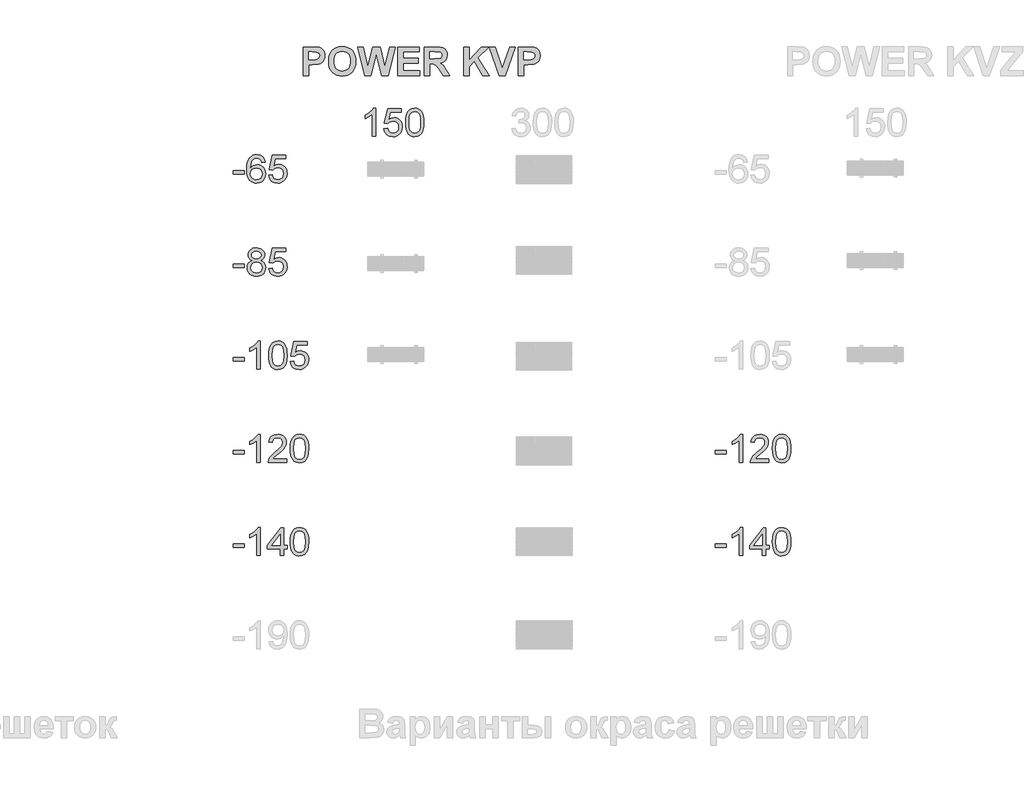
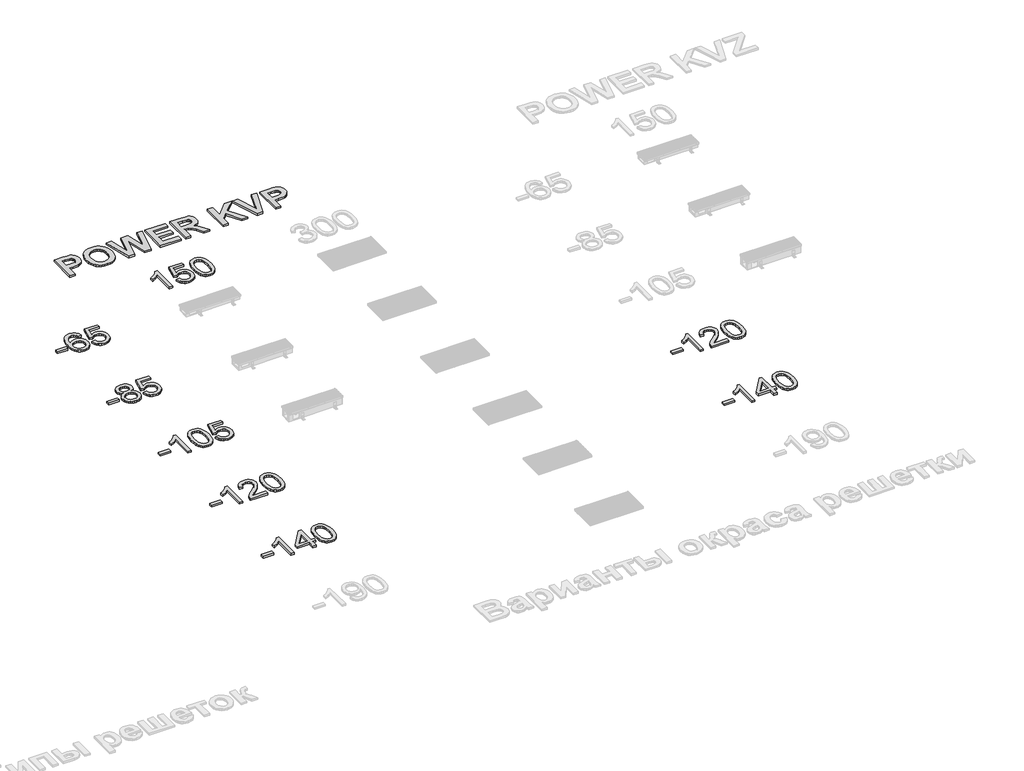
# One storey, part 9 of 10: 9 proxies.
"""IFC4 building model written with IfcOpenShell, lengths in millimetres."""

from ifc_helpers import new_model, si_unit, origin, origin_with_axes, place, context, project, spatial, polyline, outline, extrude, element, save

model = new_model("IFC4")

# Units and contexts
model_context = context("Model", 3, world=origin())
ifc_project = project(units=[si_unit("LENGTHUNIT", "METRE", prefix="MILLI")], contexts=[model_context])

# Site, building, storey
site = spatial("IfcSite", under=ifc_project)
building = spatial("IfcBuilding", under=site)
storey = spatial("IfcBuildingStorey", under=building, Name="Уровень 1", Elevation=0.0)

# Proxies
placement = place(None, origin())
element("IfcBuildingElementProxy", 1, Name="300", ObjectType="300", at=placement, inside=storey, context=model_context, shape_type="SweptSolid", body=[
    extrude(outline(polyline([(5740.7785013, -11863.6447251), (5740.7785013, -11825.9736087), (5858.5007398, -11825.9736087), (5858.5007398, -11863.6447251), (5740.7785013, -11863.6447251)])), origin_with_axes(), (0.0, 0.0, 1.0), 20.0),
    extrude(outline(polyline([(6084.5274376, -11731.795818), (6046.8563213, -11736.5047075), (6040.7862684, -11717.8346963), (6032.5824999, -11705.0875851), (6015.4943812, -11693.3337554), (5994.8378072, -11689.4158121), (5977.3266242, -11691.6966805), (5960.8455108, -11698.5392856), (5946.6912511, -11712.9510628), (5935.1305594, -11732.7890994), (5927.322264, -11760.8492985), (5924.4251933, -11799.9275635), (5939.5359463, -11782.2968189), (5957.6449375, -11769.8716045), (5977.7404915, -11762.5047675), (5998.8109327, -11760.0491552), (6016.9107269, -11761.7276168), (6033.6125695, -11766.7630016), (6048.9164605, -11775.1553096), (6062.8223999, -11786.9045409), (6074.3784931, -11801.3117195), (6082.6328453, -11817.6778698), (6087.5854567, -11836.0029916), (6089.2363271, -11856.2870851), (6086.1277243, -11883.2620324), (6076.8019157, -11908.2688111), (6062.0314536, -11929.4772081), (6042.5888902, -11945.0570106), (6019.3571422, -11954.6311395), (5993.2191264, -11957.8225158), (5970.7622299, -11955.7071943), (5950.4804356, -11949.3612299), (5932.3737437, -11938.7846226), (5916.442154, -11923.9773723), (5903.4536203, -11904.3140796), (5894.1760962, -11879.1693452), (5888.6095818, -11848.5431691), (5886.754077, -11812.4355513), (5888.8142162, -11771.9547363), (5894.9946337, -11737.4060184), (5905.2953296, -11708.7893977), (5919.7163038, -11686.1048742), (5935.34669, -11671.0722962), (5953.4694768, -11660.3347404), (5974.0846641, -11653.892207), (5997.1922519, -11651.7446958), (6030.2464492, -11657.0605907), (6056.7155588, -11673.0082752), (6075.2568113, -11698.3369505), (6084.5274376, -11731.795818)]), holes=[polyline([(5924.4251933, -11855.698474), (5926.6048941, -11872.3911195), (5933.1439966, -11888.3296069), (5943.2975397, -11902.0332112), (5956.3205623, -11912.0212074), (5972.0383205, -11918.1188515), (5990.2760704, -11920.1513995), (6015.1356963, -11915.9391507), (6034.6794273, -11903.3024041), (6047.3437649, -11883.4367764), (6051.5652108, -11857.5378839), (6047.3989472, -11832.6782581), (6034.9001565, -11813.7231383), (6015.0253317, -11801.7209882), (5988.7309661, -11797.7202715), (5963.9081284, -11801.7209882), (5943.1503869, -11813.7231383), (5929.1064917, -11832.2184056), (5924.4251933, -11855.698474)])]), origin_with_axes(), (0.0, 0.0, 1.0), 20.0),
    extrude(outline(polyline([(6122.1985539, -11873.0625041), (6159.8696702, -11868.3536146), (6166.7858517, -11890.9691602), (6178.8523812, -11907.1651651), (6196.0140762, -11916.9048409), (6218.2157546, -11920.1513995), (6245.2182931, -11915.635648), (6265.4518028, -11902.0883935), (6278.0885494, -11881.0731346), (6282.3007982, -11854.1533696), (6278.3552638, -11828.8063001), (6266.5186606, -11809.418919), (6246.6990181, -11797.1132662), (6218.8043658, -11793.011382), (6200.5298277, -11794.6484569), (6185.7317745, -11799.5596815), (6164.5785598, -11816.5558297), (6126.9074434, -11811.8469401), (6159.8696702, -11656.4535854), (6305.8452459, -11656.4535854), (6305.8452459, -11694.1247017), (6190.3302994, -11694.1247017), (6174.217068, -11777.1188798), (6201.127636, -11760.7849192), (6229.3257909, -11755.3402657), (6247.6716062, -11757.0279243), (6264.5229008, -11762.0909003), (6279.8796748, -11770.5291935), (6293.7419283, -11782.3428041), (6305.2175472, -11796.8097636), (6313.414418, -11813.2081035), (6318.3325404, -11831.5378239), (6319.9719145, -11851.7989248), (6314.0674085, -11889.4700411), (6306.686776, -11906.2638542), (6296.3538904, -11921.6965039), (6280.7005115, -11937.5016341), (6262.4351705, -11948.7910128), (6241.5578672, -11955.5646401), (6218.0686019, -11957.8225158), (6181.0688702, -11952.0191773), (6165.3901994, -11944.7650043), (6151.5923253, -11934.6091619), (6140.1121078, -11922.0574881), (6131.3864067, -11907.6158205), (6122.1985539, -11873.0625041)])), origin_with_axes(), (0.0, 0.0, 1.0), 20.0),
])
element("IfcBuildingElementProxy", 2, Name="300", ObjectType="300", at=placement, inside=storey, context=model_context, shape_type="SweptSolid", body=[
    extrude(outline(polyline([(5740.7785013, -12863.6447251), (5740.7785013, -12825.9736087), (5858.5007398, -12825.9736087), (5858.5007398, -12863.6447251), (5740.7785013, -12863.6447251)])), origin_with_axes(), (0.0, 0.0, 1.0), 20.0),
    extrude(outline(polyline([(5946.3509602, -12787.1252701), (5926.1818298, -12777.1924562), (5912.0275701, -12763.7279752), (5903.6674517, -12747.0077385), (5900.8807456, -12727.3076576), (5902.3982588, -12711.9439858), (5906.9507985, -12697.8587039), (5914.5383647, -12685.051812), (5925.1609573, -12673.5233099), (5938.3081401, -12663.9951663), (5953.4694768, -12657.1893494), (5989.834612, -12651.7446958), (6026.4204765, -12657.3181081), (6041.7473601, -12664.2848733), (6055.096878, -12674.0383447), (6065.9126086, -12685.7921745), (6073.6381305, -12698.7600148), (6078.2734437, -12712.9418657), (6079.8185481, -12728.3377272), (6077.0686301, -12747.4032116), (6068.8188764, -12763.8383398), (6054.9773163, -12777.2200473), (6035.4519794, -12787.1252701), (6058.6377422, -12799.0722378), (6075.5143287, -12816.6661943), (6085.8058275, -12839.0610107), (6089.2363271, -12865.4105586), (6087.5348729, -12884.2001315), (6082.4305102, -12901.426206), (6073.9232391, -12917.0887819), (6062.0130595, -12931.1878594), (6047.3253708, -12942.8405216), (6030.4855725, -12951.1638517), (6011.4936645, -12956.1578498), (5990.3496468, -12957.8225158), (5969.2056292, -12956.150952), (5950.2137212, -12951.1362606), (5933.3739228, -12942.7784415), (5918.6862342, -12931.0774948), (5906.7760546, -12916.879549), (5898.2687834, -12901.0307328), (5893.1644208, -12883.5310462), (5891.4629665, -12864.380489), (5895.0314219, -12837.0100686), (5905.7367879, -12814.4956905), (5923.0272417, -12797.6099069), (5946.3509602, -12787.1252701)]), holes=[polyline([(5938.5518619, -12728.4113036), (5941.890391, -12744.8556288), (5951.9059783, -12757.989016), (5968.3043183, -12766.5974547), (5990.7911052, -12769.4669343), (6012.7536603, -12766.6158488), (6028.9036799, -12758.0625924), (6038.8364938, -12745.3706636), (6042.1474318, -12730.1035608), (6038.7261292, -12714.2570439), (6028.4622215, -12701.1512478), (6012.0914728, -12692.349671), (5990.3496468, -12689.4158121), (5968.4698652, -12692.2852917), (5952.1267075, -12700.8937304), (5941.9455733, -12713.5120828), (5938.5518619, -12728.4113036)]), polyline([(5929.1340828, -12863.0561139), (5935.424865, -12891.4198157), (5944.1344712, -12903.5875127), (5957.6817257, -12912.6466068), (5973.9053217, -12918.2752013), (5990.6439524, -12920.1513995), (6016.2853275, -12916.2058651), (6035.5255558, -12904.3692619), (6047.5552971, -12886.4442117), (6051.5652108, -12864.2333362), (6047.4265384, -12841.6453817), (6035.0105211, -12823.3248584), (6015.3288343, -12811.1847525), (5989.3931536, -12807.1380506), (5964.1104635, -12811.1295702), (5945.0633732, -12823.1041292), (5933.1164054, -12841.0751646), (5929.1340828, -12863.0561139)])]), origin_with_axes(), (0.0, 0.0, 1.0), 20.0),
    extrude(outline(polyline([(6122.1985539, -12873.0625041), (6159.8696702, -12868.3536146), (6166.7858517, -12890.9691602), (6178.8523812, -12907.1651651), (6196.0140762, -12916.9048409), (6218.2157546, -12920.1513995), (6245.2182931, -12915.635648), (6265.4518028, -12902.0883935), (6278.0885494, -12881.0731346), (6282.3007982, -12854.1533696), (6278.3552638, -12828.8063001), (6266.5186606, -12809.418919), (6246.6990181, -12797.1132662), (6218.8043658, -12793.011382), (6200.5298277, -12794.6484569), (6185.7317745, -12799.5596815), (6164.5785598, -12816.5558297), (6126.9074434, -12811.8469401), (6159.8696702, -12656.4535854), (6305.8452459, -12656.4535854), (6305.8452459, -12694.1247017), (6190.3302994, -12694.1247017), (6174.217068, -12777.1188798), (6201.127636, -12760.7849192), (6229.3257909, -12755.3402657), (6247.6716062, -12757.0279243), (6264.5229008, -12762.0909003), (6279.8796748, -12770.5291935), (6293.7419283, -12782.3428041), (6305.2175472, -12796.8097636), (6313.414418, -12813.2081035), (6318.3325404, -12831.5378239), (6319.9719145, -12851.7989248), (6314.0674085, -12889.4700411), (6306.686776, -12906.2638542), (6296.3538904, -12921.6965039), (6280.7005115, -12937.5016341), (6262.4351705, -12948.7910128), (6241.5578672, -12955.5646401), (6218.0686019, -12957.8225158), (6181.0688702, -12952.0191773), (6165.3901994, -12944.7650043), (6151.5923253, -12934.6091619), (6140.1121078, -12922.0574881), (6131.3864067, -12907.6158205), (6122.1985539, -12873.0625041)])), origin_with_axes(), (0.0, 0.0, 1.0), 20.0),
])
element("IfcBuildingElementProxy", 3, Name="300", ObjectType="300", at=placement, inside=storey, context=model_context, shape_type="SweptSolid", body=[
    extrude(outline(polyline([(5740.7785013, -13863.6447251), (5740.7785013, -13825.9736087), (5858.5007398, -13825.9736087), (5858.5007398, -13863.6447251), (5740.7785013, -13863.6447251)])), origin_with_axes(), (0.0, 0.0, 1.0), 20.0),
    extrude(outline(polyline([(6032.7296527, -13953.1136263), (5995.0585364, -13953.1136263), (5995.0585364, -13718.2577606), (5959.3739828, -13743.6784064), (5919.7163038, -13762.6979056), (5919.7163038, -13727.0869284), (5949.3032132, -13710.9920912), (5974.9353912, -13691.8438333), (5995.1413098, -13671.4815649), (6008.449441, -13651.7446958), (6032.7296527, -13651.7446958), (6032.7296527, -13953.1136263)])), origin_with_axes(), (0.0, 0.0, 1.0), 20.0),
    extrude(outline(polyline([(6122.1985539, -13804.8571822), (6124.9668659, -13756.6186556), (6133.271802, -13718.147396), (6147.0305886, -13688.8547921), (6166.1604523, -13668.1522328), (6190.799349, -13655.8465801), (6221.0852342, -13651.7446958), (6244.2985881, -13654.172717), (6265.0839208, -13661.4567805), (6282.4663451, -13673.3117778), (6295.4709736, -13689.4526003), (6305.2934229, -13709.7412924), (6313.1293094, -13734.0398982), (6318.2612632, -13764.8960005), (6319.9719145, -13804.8571822), (6317.2311937, -13852.8197973), (6309.0090311, -13891.1990865), (6295.3330179, -13920.5192815), (6276.2307453, -13941.3046142), (6251.5366664, -13953.6930404), (6221.0852342, -13957.8225158), (6200.3366897, -13956.0290911), (6181.9425899, -13950.6488169), (6165.9029349, -13941.6816933), (6152.2177247, -13929.1277202), (6139.0843375, -13906.4339996), (6129.7033466, -13878.1576698), (6124.0747521, -13844.2987306), (6122.1985539, -13804.8571822)]), holes=[polyline([(6159.8696702, -13804.7836058), (6164.2842542, -13864.0401982), (6169.8024841, -13884.3081969), (6177.528006, -13898.3359972), (6197.2464809, -13914.6975489), (6221.0852342, -13920.1513995), (6244.9239875, -13914.6791548), (6264.6424624, -13898.2624208), (6272.3679843, -13884.2116278), (6277.8862143, -13863.9482277), (6282.3007982, -13804.7836058), (6278.0333671, -13746.8605857), (6272.6990781, -13726.6592656), (6265.2310736, -13712.2980722), (6245.5493869, -13695.1363772), (6220.6437758, -13689.4158121), (6197.0625399, -13694.4557955), (6178.1166172, -13709.5757455), (6170.1335779, -13725.2107303), (6164.431407, -13746.2903686), (6159.8696702, -13804.7836058)])]), origin_with_axes(), (0.0, 0.0, 1.0), 20.0),
    extrude(outline(polyline([(6352.9341413, -13873.0625041), (6390.6052576, -13868.3536146), (6397.5214391, -13890.9691602), (6409.5879685, -13907.1651651), (6426.7496636, -13916.9048409), (6448.951342, -13920.1513995), (6475.9538805, -13915.635648), (6496.1873902, -13902.0883935), (6508.8241367, -13881.0731346), (6513.0363856, -13854.1533696), (6509.0908512, -13828.8063001), (6497.254248, -13809.418919), (6477.4346055, -13797.1132662), (6449.5399532, -13793.011382), (6431.2654151, -13794.6484569), (6416.4673618, -13799.5596815), (6395.3141471, -13816.5558297), (6357.6430308, -13811.8469401), (6390.6052576, -13656.4535854), (6536.5808333, -13656.4535854), (6536.5808333, -13694.1247017), (6421.0658868, -13694.1247017), (6404.9526554, -13777.1188798), (6431.8632233, -13760.7849192), (6460.0613783, -13755.3402657), (6478.4071935, -13757.0279243), (6495.2584882, -13762.0909003), (6510.6152622, -13770.5291935), (6524.4775156, -13782.3428041), (6535.9531346, -13796.8097636), (6544.1500053, -13813.2081035), (6549.0681277, -13831.5378239), (6550.7075019, -13851.7989248), (6544.8029959, -13889.4700411), (6537.4223633, -13906.2638542), (6527.0894778, -13921.6965039), (6511.4360989, -13937.5016341), (6493.1707578, -13948.7910128), (6472.2934546, -13955.5646401), (6448.8041892, -13957.8225158), (6411.8044576, -13952.0191773), (6396.1257868, -13944.7650043), (6382.3279127, -13934.6091619), (6370.8476952, -13922.0574881), (6362.1219941, -13907.6158205), (6352.9341413, -13873.0625041)])), origin_with_axes(), (0.0, 0.0, 1.0), 20.0),
])
element("IfcBuildingElementProxy", 4, Name="300", ObjectType="300", at=placement, inside=storey, context=model_context, shape_type="SweptSolid", body=[
    extrude(outline(polyline([(5740.7785013, -14863.6447251), (5740.7785013, -14825.9736087), (5858.5007398, -14825.9736087), (5858.5007398, -14863.6447251), (5740.7785013, -14863.6447251)])), origin_with_axes(), (0.0, 0.0, 1.0), 20.0),
    extrude(outline(polyline([(6032.7296527, -14953.1136263), (5995.0585364, -14953.1136263), (5995.0585364, -14718.2577606), (5959.3739828, -14743.6784064), (5919.7163038, -14762.6979056), (5919.7163038, -14727.0869284), (5949.3032132, -14710.9920912), (5974.9353912, -14691.8438333), (5995.1413098, -14671.4815649), (6008.449441, -14651.7446958), (6032.7296527, -14651.7446958), (6032.7296527, -14953.1136263)])), origin_with_axes(), (0.0, 0.0, 1.0), 20.0),
    extrude(outline(polyline([(6315.263025, -14915.44251), (6315.263025, -14953.1136263), (6117.4896644, -14953.1136263), (6121.5363663, -14927.1411574), (6130.8253867, -14906.8432683), (6144.4186264, -14887.1523845), (6164.0819191, -14866.5417958), (6191.5810982, -14843.4847917), (6232.2320587, -14807.3771739), (6256.6226349, -14780.7241233), (6268.8179231, -14759.092662), (6272.8830191, -14738.0498119), (6269.0478493, -14719.1866626), (6257.5423399, -14703.5056926), (6239.856413, -14692.9382822), (6217.4799907, -14689.4158121), (6193.9815282, -14692.8555088), (6175.7253842, -14703.1745988), (6163.9439633, -14719.5637416), (6159.8696702, -14741.2135971), (6122.1985539, -14736.5047075), (6131.3312244, -14700.0659959), (6139.877583, -14685.5300586), (6151.0772905, -14673.4497335), (6164.6728295, -14663.9537795), (6180.4066826, -14657.1709553), (6218.289331, -14651.7446958), (6238.4791548, -14653.253012), (6256.447891, -14657.7779606), (6272.1955397, -14665.3195415), (6285.7221008, -14675.8777547), (6296.5861159, -14688.6708511), (6304.3461268, -14702.9170814), (6309.0021333, -14718.6164455), (6310.5541354, -14735.7689435), (6308.8802724, -14753.7859642), (6303.8586831, -14771.4902853), (6294.9467418, -14789.4981089), (6281.6018224, -14808.4256376), (6260.329046, -14831.0227891), (6227.6335337, -14860.0394815), (6184.2970347, -14896.275858), (6167.3008865, -14915.44251), (6315.263025, -14915.44251)])), origin_with_axes(), (0.0, 0.0, 1.0), 20.0),
    extrude(outline(polyline([(6352.9341413, -14804.8571822), (6355.7024533, -14756.6186556), (6364.0073893, -14718.147396), (6377.766176, -14688.8547921), (6396.8960397, -14668.1522328), (6421.5349363, -14655.8465801), (6451.8208216, -14651.7446958), (6475.0341755, -14654.172717), (6495.8195082, -14661.4567805), (6513.2019325, -14673.3117778), (6526.206561, -14689.4526003), (6536.0290103, -14709.7412924), (6543.8648968, -14734.0398982), (6548.9968506, -14764.8960005), (6550.7075019, -14804.8571822), (6547.966781, -14852.8197973), (6539.7446184, -14891.1990865), (6526.0686053, -14920.5192815), (6506.9663327, -14941.3046142), (6482.2722537, -14953.6930404), (6451.8208216, -14957.8225158), (6431.0722771, -14956.0290911), (6412.6781773, -14950.6488169), (6396.6385223, -14941.6816933), (6382.9533121, -14929.1277202), (6369.8199249, -14906.4339996), (6360.438934, -14878.1576698), (6354.8103395, -14844.2987306), (6352.9341413, -14804.8571822)]), holes=[polyline([(6390.6052576, -14804.7836058), (6395.0198415, -14864.0401982), (6400.5380715, -14884.3081969), (6408.2635934, -14898.3359972), (6427.9820683, -14914.6975489), (6451.8208216, -14920.1513995), (6475.6595749, -14914.6791548), (6495.3780498, -14898.2624208), (6503.1035717, -14884.2116278), (6508.6218016, -14863.9482277), (6513.0363856, -14804.7836058), (6508.7689544, -14746.8605857), (6503.4346655, -14726.6592656), (6495.966661, -14712.2980722), (6476.2849743, -14695.1363772), (6451.3793632, -14689.4158121), (6427.7981273, -14694.4557955), (6408.8522045, -14709.5757455), (6400.8691653, -14725.2107303), (6395.1669943, -14746.2903686), (6390.6052576, -14804.7836058)])]), origin_with_axes(), (0.0, 0.0, 1.0), 20.0),
])
element("IfcBuildingElementProxy", 5, Name="300", ObjectType="300", at=placement, inside=storey, context=model_context, shape_type="SweptSolid", body=[
    extrude(outline(polyline([(5740.7785013, -15863.6447251), (5740.7785013, -15825.9736087), (5858.5007398, -15825.9736087), (5858.5007398, -15863.6447251), (5740.7785013, -15863.6447251)])), origin_with_axes(), (0.0, 0.0, 1.0), 20.0),
    extrude(outline(polyline([(6032.7296527, -15953.1136263), (5995.0585364, -15953.1136263), (5995.0585364, -15718.2577606), (5959.3739828, -15743.6784064), (5919.7163038, -15762.6979056), (5919.7163038, -15727.0869284), (5949.3032132, -15710.9920912), (5974.9353912, -15691.8438333), (5995.1413098, -15671.4815649), (6008.449441, -15651.7446958), (6032.7296527, -15651.7446958), (6032.7296527, -15953.1136263)])), origin_with_axes(), (0.0, 0.0, 1.0), 20.0),
    extrude(outline(polyline([(6244.6296819, -15953.1136263), (6244.6296819, -15882.4802832), (6108.0718853, -15882.4802832), (6108.0718853, -15844.8091669), (6254.047461, -15656.4535854), (6282.3007982, -15656.4535854), (6282.3007982, -15844.8091669), (6319.9719145, -15844.8091669), (6319.9719145, -15882.4802832), (6282.3007982, -15882.4802832), (6282.3007982, -15953.1136263), (6244.6296819, -15953.1136263)]), holes=[polyline([(6244.6296819, -15844.8091669), (6244.6296819, -15728.4113036), (6154.4250167, -15844.8091669), (6244.6296819, -15844.8091669)])]), origin_with_axes(), (0.0, 0.0, 1.0), 20.0),
    extrude(outline(polyline([(6352.9341413, -15804.8571822), (6355.7024533, -15756.6186556), (6364.0073893, -15718.147396), (6377.766176, -15688.8547921), (6396.8960397, -15668.1522328), (6421.5349363, -15655.8465801), (6451.8208216, -15651.7446958), (6475.0341755, -15654.172717), (6495.8195082, -15661.4567805), (6513.2019325, -15673.3117778), (6526.206561, -15689.4526003), (6536.0290103, -15709.7412924), (6543.8648968, -15734.0398982), (6548.9968506, -15764.8960005), (6550.7075019, -15804.8571822), (6547.966781, -15852.8197973), (6539.7446184, -15891.1990865), (6526.0686053, -15920.5192815), (6506.9663327, -15941.3046142), (6482.2722537, -15953.6930404), (6451.8208216, -15957.8225158), (6431.0722771, -15956.0290911), (6412.6781773, -15950.6488169), (6396.6385223, -15941.6816933), (6382.9533121, -15929.1277202), (6369.8199249, -15906.4339996), (6360.438934, -15878.1576698), (6354.8103395, -15844.2987306), (6352.9341413, -15804.8571822)]), holes=[polyline([(6390.6052576, -15804.7836058), (6395.0198415, -15864.0401982), (6400.5380715, -15884.3081969), (6408.2635934, -15898.3359972), (6427.9820683, -15914.6975489), (6451.8208216, -15920.1513995), (6475.6595749, -15914.6791548), (6495.3780498, -15898.2624208), (6503.1035717, -15884.2116278), (6508.6218016, -15863.9482277), (6513.0363856, -15804.7836058), (6508.7689544, -15746.8605857), (6503.4346655, -15726.6592656), (6495.966661, -15712.2980722), (6476.2849743, -15695.1363772), (6451.3793632, -15689.4158121), (6427.7981273, -15694.4557955), (6408.8522045, -15709.5757455), (6400.8691653, -15725.2107303), (6395.1669943, -15746.2903686), (6390.6052576, -15804.7836058)])]), origin_with_axes(), (0.0, 0.0, 1.0), 20.0),
])
element("IfcBuildingElementProxy", 6, Name="300", ObjectType="300", at=placement, inside=storey, context=model_context, shape_type="SweptSolid", body=[
    extrude(outline(polyline([(7268.8360078, -11454.3568478), (7231.1648915, -11454.3568478), (7231.1648915, -11219.5009821), (7195.480338, -11244.921628), (7155.8226589, -11263.9411271), (7155.8226589, -11228.33015), (7185.4095684, -11212.2353127), (7211.0417464, -11193.0870549), (7231.247665, -11172.7247864), (7244.5557962, -11152.9879174), (7268.8360078, -11152.9879174), (7268.8360078, -11454.3568478)])), origin_with_axes(), (0.0, 0.0, 1.0), 20.0),
    extrude(outline(polyline([(7358.3049091, -11374.3057257), (7395.9760254, -11369.5968361), (7402.8922069, -11392.2123818), (7414.9587363, -11408.4083866), (7432.1204314, -11418.1480625), (7454.3221098, -11421.3946211), (7481.3246483, -11416.8788696), (7501.558158, -11403.3316151), (7514.1949045, -11382.3163561), (7518.4071534, -11355.3965911), (7514.461619, -11330.0495217), (7502.6250158, -11310.6621405), (7482.8053733, -11298.3564878), (7454.910721, -11294.2546035), (7436.6361829, -11295.8916784), (7421.8381296, -11300.802903), (7400.6849149, -11317.7990512), (7363.0137986, -11313.0901617), (7395.9760254, -11157.6968069), (7541.9516011, -11157.6968069), (7541.9516011, -11195.3679232), (7426.4366546, -11195.3679232), (7410.3234232, -11278.3621013), (7437.2339911, -11262.0281407), (7465.4321461, -11256.5834872), (7483.7779613, -11258.2711459), (7500.6292559, -11263.3341218), (7515.98603, -11271.7724151), (7529.8482834, -11283.5860257), (7541.3239024, -11298.0529851), (7549.5207731, -11314.4513251), (7554.4388955, -11332.7810455), (7556.0782697, -11353.0421464), (7550.1737636, -11390.7132627), (7542.7931311, -11407.5070757), (7532.4602456, -11422.9397254), (7516.8068667, -11438.7448557), (7498.5415256, -11450.0342344), (7477.6642224, -11456.8078616), (7454.174957, -11459.0657374), (7417.1752253, -11453.2623989), (7401.4965546, -11446.0082258), (7387.6986805, -11435.8523835), (7376.218463, -11423.3007096), (7367.4927619, -11408.8590421), (7358.3049091, -11374.3057257)])), origin_with_axes(), (0.0, 0.0, 1.0), 20.0),
    extrude(outline(polyline([(7589.0404964, -11306.1004038), (7591.8088085, -11257.8618772), (7600.1137445, -11219.3906175), (7613.8725311, -11190.0980136), (7633.0023949, -11169.3954544), (7657.6412915, -11157.0898016), (7687.9271767, -11152.9879174), (7711.1405306, -11155.4159385), (7731.9258634, -11162.700002), (7749.3082876, -11174.5549993), (7762.3129162, -11190.6958219), (7772.1353654, -11210.9845139), (7779.9712519, -11235.2831197), (7785.1032058, -11266.139222), (7786.813857, -11306.1004038), (7784.0731362, -11354.0630189), (7775.8509736, -11392.442308), (7762.1749604, -11421.7625031), (7743.0726878, -11442.5478358), (7718.3786089, -11454.936262), (7687.9271767, -11459.0657374), (7667.1786322, -11457.2723126), (7648.7845325, -11451.8920385), (7632.7448775, -11442.9249148), (7619.0596672, -11430.3709417), (7605.92628, -11407.6772212), (7596.5452891, -11379.4008913), (7590.9166946, -11345.5419522), (7589.0404964, -11306.1004038)]), holes=[polyline([(7626.7116127, -11306.0268274), (7631.1261967, -11365.2834197), (7636.6444266, -11385.5514184), (7644.3699485, -11399.5792187), (7664.0884235, -11415.9407705), (7687.9271767, -11421.3946211), (7711.76593, -11415.9223764), (7731.484405, -11399.5056423), (7739.2099269, -11385.4548494), (7744.7281568, -11365.1914492), (7749.1427407, -11306.0268274), (7744.8753096, -11248.1038072), (7739.5410207, -11227.9024872), (7732.0730162, -11213.5412938), (7712.3913294, -11196.3795987), (7687.4857183, -11190.6590337), (7663.9044825, -11195.699017), (7644.9585597, -11210.818967), (7636.9755204, -11226.4539518), (7631.2733495, -11247.5335901), (7626.7116127, -11306.0268274)])]), origin_with_axes(), (0.0, 0.0, 1.0), 20.0),
])
element("IfcBuildingElementProxy", 7, Name="300", ObjectType="300", at=placement, inside=storey, context=model_context, shape_type="SweptSolid", body=[
    extrude(outline(polyline([(10910.3041617, -14863.5358933), (10910.3041617, -14825.864777), (11028.0264001, -14825.864777), (11028.0264001, -14863.5358933), (10910.3041617, -14863.5358933)])), origin_with_axes(), (0.0, 0.0, 1.0), 20.0),
    extrude(outline(polyline([(11202.255313, -14953.0047945), (11164.5841967, -14953.0047945), (11164.5841967, -14718.1489288), (11128.8996432, -14743.5695747), (11089.2419641, -14762.5890738), (11089.2419641, -14726.9780967), (11118.8288736, -14710.8832594), (11144.4610516, -14691.7350016), (11164.6669702, -14671.3727331), (11177.9751014, -14651.6358641), (11202.255313, -14651.6358641), (11202.255313, -14953.0047945)])), origin_with_axes(), (0.0, 0.0, 1.0), 20.0),
    extrude(outline(polyline([(11484.7886853, -14915.3336782), (11484.7886853, -14953.0047945), (11287.0153247, -14953.0047945), (11291.0620267, -14927.0323257), (11300.351047, -14906.7344366), (11313.9442868, -14887.0435528), (11333.6075794, -14866.432964), (11361.1067586, -14843.37596), (11401.757719, -14807.2683421), (11426.1482953, -14780.6152916), (11438.3435834, -14758.9838303), (11442.4086795, -14737.9409801), (11438.5735097, -14719.0778308), (11427.0680003, -14703.3968608), (11409.3820734, -14692.8294505), (11387.005651, -14689.3069804), (11363.5071886, -14692.746677), (11345.2510446, -14703.065767), (11333.4696237, -14719.4549099), (11329.3953306, -14741.1047653), (11291.7242143, -14736.3958758), (11300.8568848, -14699.9571641), (11309.4032434, -14685.4212268), (11320.6029509, -14673.3409018), (11334.1984899, -14663.8449478), (11349.9323429, -14657.0621235), (11387.8149914, -14651.6358641), (11408.0048152, -14653.1441803), (11425.9735514, -14657.6691288), (11441.7212, -14665.2107097), (11455.2477611, -14675.768923), (11466.1117763, -14688.5620193), (11473.8717871, -14702.8082496), (11478.5277936, -14718.5076138), (11480.0797958, -14735.6601118), (11478.4059327, -14753.6771325), (11473.3843435, -14771.3814535), (11464.4724021, -14789.3892772), (11451.1274828, -14808.3168058), (11429.8547064, -14830.9139574), (11397.1591941, -14859.9306497), (11353.822695, -14896.1670263), (11336.8265469, -14915.3336782), (11484.7886853, -14915.3336782)])), origin_with_axes(), (0.0, 0.0, 1.0), 20.0),
    extrude(outline(polyline([(11522.4598016, -14804.7483505), (11525.2281137, -14756.5098239), (11533.5330497, -14718.0385642), (11547.2918363, -14688.7459603), (11566.4217001, -14668.0434011), (11591.0605967, -14655.7377483), (11621.3464819, -14651.6358641), (11644.5598358, -14654.0638852), (11665.3451686, -14661.3479488), (11682.7275928, -14673.202946), (11695.7322214, -14689.3437686), (11705.5546706, -14709.6324606), (11713.3905571, -14733.9310664), (11718.522511, -14764.7871687), (11720.2331622, -14804.7483505), (11717.4924414, -14852.7109656), (11709.2702788, -14891.0902547), (11695.5942656, -14920.4104498), (11676.491993, -14941.1957825), (11651.7979141, -14953.5842087), (11621.3464819, -14957.7136841), (11600.5979374, -14955.9202593), (11582.2038377, -14950.5399852), (11566.1641827, -14941.5728615), (11552.4789724, -14929.0188884), (11539.3455852, -14906.3251679), (11529.9645943, -14878.048838), (11524.3359998, -14844.1898989), (11522.4598016, -14804.7483505)]), holes=[polyline([(11560.1309179, -14804.6747741), (11564.5455019, -14863.9313664), (11570.0637318, -14884.1993651), (11577.7892537, -14898.2271654), (11597.5077287, -14914.5887172), (11621.3464819, -14920.0425678), (11645.1852352, -14914.5703231), (11664.9037102, -14898.153589), (11672.6292321, -14884.1027961), (11678.147462, -14863.8393959), (11682.5620459, -14804.6747741), (11678.2946148, -14746.7517539), (11672.9603259, -14726.5504339), (11665.4923214, -14712.1892405), (11645.8106346, -14695.0275454), (11620.9050235, -14689.3069804), (11597.3237877, -14694.3469637), (11578.3778649, -14709.4669137), (11570.3948256, -14725.1018985), (11564.6926547, -14746.1815368), (11560.1309179, -14804.6747741)])]), origin_with_axes(), (0.0, 0.0, 1.0), 20.0),
])
element("IfcBuildingElementProxy", 8, Name="300", ObjectType="300", at=placement, inside=storey, context=model_context, shape_type="SweptSolid", body=[
    extrude(outline(polyline([(10910.3041617, -15863.5358933), (10910.3041617, -15825.864777), (11028.0264001, -15825.864777), (11028.0264001, -15863.5358933), (10910.3041617, -15863.5358933)])), origin_with_axes(), (0.0, 0.0, 1.0), 20.0),
    extrude(outline(polyline([(11202.255313, -15953.0047945), (11164.5841967, -15953.0047945), (11164.5841967, -15718.1489288), (11128.8996432, -15743.5695747), (11089.2419641, -15762.5890738), (11089.2419641, -15726.9780967), (11118.8288736, -15710.8832594), (11144.4610516, -15691.7350016), (11164.6669702, -15671.3727331), (11177.9751014, -15651.6358641), (11202.255313, -15651.6358641), (11202.255313, -15953.0047945)])), origin_with_axes(), (0.0, 0.0, 1.0), 20.0),
    extrude(outline(polyline([(11414.1553423, -15953.0047945), (11414.1553423, -15882.3714515), (11277.5975456, -15882.3714515), (11277.5975456, -15844.7003351), (11423.5731213, -15656.3447536), (11451.8264586, -15656.3447536), (11451.8264586, -15844.7003351), (11489.4975749, -15844.7003351), (11489.4975749, -15882.3714515), (11451.8264586, -15882.3714515), (11451.8264586, -15953.0047945), (11414.1553423, -15953.0047945)]), holes=[polyline([(11414.1553423, -15844.7003351), (11414.1553423, -15728.3024719), (11323.950677, -15844.7003351), (11414.1553423, -15844.7003351)])]), origin_with_axes(), (0.0, 0.0, 1.0), 20.0),
    extrude(outline(polyline([(11522.4598016, -15804.7483505), (11525.2281137, -15756.5098239), (11533.5330497, -15718.0385642), (11547.2918363, -15688.7459603), (11566.4217001, -15668.0434011), (11591.0605967, -15655.7377483), (11621.3464819, -15651.6358641), (11644.5598358, -15654.0638852), (11665.3451686, -15661.3479488), (11682.7275928, -15673.202946), (11695.7322214, -15689.3437686), (11705.5546706, -15709.6324606), (11713.3905571, -15733.9310664), (11718.522511, -15764.7871687), (11720.2331622, -15804.7483505), (11717.4924414, -15852.7109656), (11709.2702788, -15891.0902547), (11695.5942656, -15920.4104498), (11676.491993, -15941.1957825), (11651.7979141, -15953.5842087), (11621.3464819, -15957.7136841), (11600.5979374, -15955.9202593), (11582.2038377, -15950.5399852), (11566.1641827, -15941.5728615), (11552.4789724, -15929.0188884), (11539.3455852, -15906.3251679), (11529.9645943, -15878.048838), (11524.3359998, -15844.1898989), (11522.4598016, -15804.7483505)]), holes=[polyline([(11560.1309179, -15804.6747741), (11564.5455019, -15863.9313664), (11570.0637318, -15884.1993651), (11577.7892537, -15898.2271654), (11597.5077287, -15914.5887172), (11621.3464819, -15920.0425678), (11645.1852352, -15914.5703231), (11664.9037102, -15898.153589), (11672.6292321, -15884.1027961), (11678.147462, -15863.8393959), (11682.5620459, -15804.6747741), (11678.2946148, -15746.7517539), (11672.9603259, -15726.5504339), (11665.4923214, -15712.1892405), (11645.8106346, -15695.0275454), (11620.9050235, -15689.3069804), (11597.3237877, -15694.3469637), (11578.3778649, -15709.4669137), (11570.3948256, -15725.1018985), (11564.6926547, -15746.1815368), (11560.1309179, -15804.6747741)])]), origin_with_axes(), (0.0, 0.0, 1.0), 20.0),
])
element("IfcBuildingElementProxy", 9, Name="300_", ObjectType="300_", at=placement, inside=storey, context=model_context, shape_type="SweptSolid", body=[
    extrude(outline(polyline([(6492.0401145, -10803.3862904), (6492.0401145, -10497.3084704), (6590.6500074, -10497.3084704), (6636.9754017, -10498.4471528), (6663.7534153, -10501.8631999), (6687.8080803, -10512.7281275), (6707.5926864, -10531.6587218), (6720.8298689, -10557.9527955), (6725.2422631, -10590.9081609), (6722.6517607, -10616.6898275), (6714.8802536, -10638.0116548), (6703.1138691, -10655.0539342), (6688.5387348, -10667.9969571), (6672.4358684, -10677.0589709), (6656.0862874, -10682.4582232), (6591.1813925, -10686.7852162), (6550.3406517, -10686.7852162), (6550.3406517, -10803.3862904), (6492.0401145, -10803.3862904)]), holes=[polyline([(6550.3406517, -10550.7506295), (6550.3406517, -10633.3430571), (6586.5507509, -10633.3430571), (6619.1645117, -10632.2043747), (6638.8162715, -10628.7883276), (6650.5636779, -10622.9336025), (6659.4643784, -10614.4788859), (6665.0723891, -10603.936585), (6666.941726, -10591.8191068), (6664.3132675, -10577.3388627), (6656.4278921, -10565.6294124), (6644.5381504, -10557.241119), (6629.896593, -10552.7243456), (6582.2996701, -10550.7506295), (6550.3406517, -10550.7506295)])]), origin_with_axes(), (0.0, 0.0, 1.0), 20.0),
    extrude(outline(polyline([(6764.1092879, -10652.2451844), (6767.544313, -10609.3168592), (6777.8493884, -10573.9038376), (6789.9668666, -10551.7849326), (6805.8230185, -10532.0382826), (6824.3930301, -10515.878482), (6844.6520872, -10504.5201254), (6874.9030821, -10495.4676006), (6909.4810699, -10492.4500924), (6941.0320605, -10495.0666895), (6969.2618941, -10502.9164811), (6994.1705709, -10515.999467), (7015.7580908, -10534.3156473), (7033.1941645, -10557.2909363), (7045.6485029, -10584.3512483), (7053.1211059, -10615.4965833), (7055.6119736, -10650.7269412), (7053.1400839, -10685.7177014), (7045.724415, -10716.6756283), (7033.3649668, -10743.6007217), (7016.0617394, -10766.4929818), (6994.6165548, -10784.7593447), (6969.8312353, -10797.8067468), (6941.7057809, -10805.6351881), (6910.2401915, -10808.2446685), (6878.4424864, -10805.6470494), (6850.0798065, -10797.8541919), (6825.1521517, -10784.8660962), (6803.659522, -10766.6827622), (6786.3562946, -10743.9446987), (6773.9968464, -10717.2924145), (6766.5811775, -10686.7259098), (6764.1092879, -10652.2451844)]), holes=[polyline([(6822.409825, -10650.119644), (6823.9589075, -10674.3308778), (6828.6061549, -10695.4202241), (6836.3515672, -10713.3876829), (6847.1951445, -10728.2332543), (6860.4252102, -10739.8573034), (6875.330088, -10748.1601957), (6891.9097777, -10753.141931), (6910.1642793, -10754.8025095), (6928.399803, -10753.1537923), (6944.9225586, -10748.2076408), (6959.7325461, -10739.9640549), (6972.8297656, -10728.4230347), (6983.5404966, -10713.5845801), (6991.1910187, -10695.4486912), (6995.781332, -10674.0153679), (6997.3114364, -10649.2846102), (6995.8216603, -10624.8978296), (6991.352332, -10603.8132278), (6983.9034516, -10586.0308048), (6973.4750189, -10571.5505607), (6960.5794411, -10560.3250504), (6945.7291252, -10552.3068287), (6928.9240713, -10547.4958957), (6910.1642793, -10545.8922514), (6891.3855093, -10547.5148738), (6874.5235213, -10552.3827409), (6859.5783152, -10560.4958527), (6846.5498912, -10571.8542093), (6835.9886122, -10586.4815332), (6828.4448415, -10604.401547), (6823.9185791, -10625.6142506), (6822.409825, -10650.119644)])]), origin_with_axes(), (0.0, 0.0, 1.0), 20.0),
    extrude(outline(polyline([(7152.096326, -10803.3862904), (7075.0454859, -10497.3084704), (7134.8642662, -10497.3084704), (7184.3589931, -10707.5851474), (7237.5734157, -10497.3084704), (7315.9906746, -10497.3084704), (7368.9773607, -10711.0771066), (7418.4720875, -10497.3084704), (7478.2908678, -10497.3084704), (7402.3787101, -10803.3862904), (7333.3745587, -10803.3862904), (7276.6681769, -10574.587047), (7218.8231127, -10803.3862904), (7152.096326, -10803.3862904)])), origin_with_axes(), (0.0, 0.0, 1.0), 20.0),
    extrude(outline(polyline([(7507.4411364, -10803.3862904), (7507.4411364, -10497.3084704), (7735.7849069, -10497.3084704), (7735.7849069, -10550.7506295), (7565.7416735, -10550.7506295), (7565.7416735, -10618.7679228), (7726.0681507, -10618.7679228), (7726.0681507, -10672.2100819), (7565.7416735, -10672.2100819), (7565.7416735, -10749.9441314), (7740.643285, -10749.9441314), (7740.643285, -10803.3862904), (7507.4411364, -10803.3862904)])), origin_with_axes(), (0.0, 0.0, 1.0), 20.0),
    extrude(outline(polyline([(7789.2270659, -10803.3862904), (7789.2270659, -10497.3084704), (7917.9740854, -10497.3084704), (7959.9155526, -10499.3770767), (7988.5723921, -10505.5828956), (8008.3854653, -10517.0835875), (8023.7956333, -10535.0368128), (8033.7021699, -10557.753526), (8037.0043488, -10583.5446816), (8032.2313718, -10615.1431173), (8017.9124411, -10640.7065364), (7994.0855126, -10659.0772786), (7960.7885424, -10669.0976834), (7991.381142, -10694.6041684), (8023.8715455, -10744.0229831), (8061.2962392, -10803.3862904), (7993.2030338, -10803.3862904), (7948.8703336, -10733.4711932), (7914.0646093, -10691.985199), (7894.175624, -10680.2567706), (7860.8881428, -10677.06846), (7847.5276031, -10677.06846), (7847.5276031, -10803.3862904), (7789.2270659, -10803.3862904)]), holes=[polyline([(7847.5276031, -10623.6263009), (7895.5799989, -10623.6263009), (7953.9184921, -10620.0963856), (7964.2994797, -10615.2949416), (7972.13741, -10607.9504403), (7977.0622112, -10598.2621512), (7978.7038116, -10586.4293436), (7976.5403151, -10573.3250074), (7970.0498256, -10563.010443), (7959.611904, -10555.7323648), (7945.6061109, -10551.7374875), (7898.2369244, -10550.7506295), (7847.5276031, -10550.7506295), (7847.5276031, -10623.6263009)])]), origin_with_axes(), (0.0, 0.0, 1.0), 20.0),
    extrude(outline(polyline([(8211.9059602, -10803.3862904), (8211.9059602, -10497.3084704), (8270.2064973, -10497.3084704), (8270.2064973, -10636.8350164), (8401.5345302, -10497.3084704), (8481.5459445, -10497.3084704), (8365.7039918, -10614.2131934), (8486.4043226, -10803.3862904), (8418.2352049, -10803.3862904), (8327.823825, -10652.548833), (8270.2064973, -10710.773458), (8270.2064973, -10803.3862904), (8211.9059602, -10803.3862904)])), origin_with_axes(), (0.0, 0.0, 1.0), 20.0),
    extrude(outline(polyline([(8591.998134, -10803.3862904), (8488.8335116, -10497.3084704), (8550.3223594, -10497.3084704), (8627.2972873, -10725.6522409), (8704.4999517, -10497.3084704), (8765.761063, -10497.3084704), (8657.1307653, -10803.3862904), (8591.998134, -10803.3862904)])), origin_with_axes(), (0.0, 0.0, 1.0), 20.0),
    extrude(outline(polyline([(8799.7697097, -10803.3862904), (8799.7697097, -10497.3084704), (8898.3796026, -10497.3084704), (8944.7049968, -10498.4471528), (8971.4830105, -10501.8631999), (8995.5376755, -10512.7281275), (9015.3222816, -10531.6587218), (9028.5594641, -10557.9527955), (9032.9718582, -10590.9081609), (9030.3813559, -10616.6898275), (9022.6098487, -10638.0116548), (9010.8434643, -10655.0539342), (8996.26833, -10667.9969571), (8980.1654635, -10677.0589709), (8963.8158825, -10682.4582232), (8898.9109877, -10686.7852162), (8858.0702468, -10686.7852162), (8858.0702468, -10803.3862904), (8799.7697097, -10803.3862904)]), holes=[polyline([(8858.0702468, -10550.7506295), (8858.0702468, -10633.3430571), (8894.2803461, -10633.3430571), (8926.8941068, -10632.2043747), (8946.5458667, -10628.7883276), (8958.2932731, -10622.9336025), (8967.1939736, -10614.4788859), (8972.8019842, -10603.936585), (8974.6713211, -10591.8191068), (8972.0428626, -10577.3388627), (8964.1574873, -10565.6294124), (8952.2677456, -10557.241119), (8937.6261881, -10552.7243456), (8890.0292652, -10550.7506295), (8858.0702468, -10550.7506295)])]), origin_with_axes(), (0.0, 0.0, 1.0), 20.0),
])

save(model, "model.ifc")
